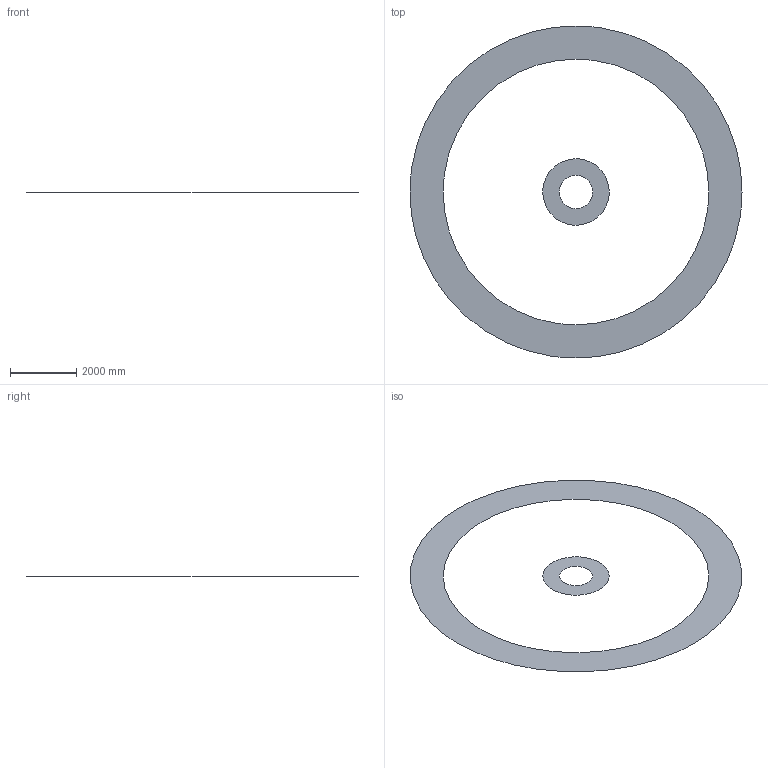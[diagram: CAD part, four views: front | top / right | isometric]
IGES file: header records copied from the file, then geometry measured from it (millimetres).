
Start section: VM228, RADIATION BETWEEN INFINITE COAXIAL CYLINDERS /COM,ANSYS RELEASE                   BUILD  0.0      UP00000000       00 /NOPR /PREP7 /TITLE,VM228, RADIATION BETWEEN INFINITE COAXIAL CYLINDERS DOF,TEMP, *SET,TIN,1000.000000000 *SET,TOUT,100.0000000000 *SET,_GEOMGEN,1.000000000000 *SET,_RETURN,0.000000000000 *SET,_STATUS,0.000000000000 TREF,0.00000000 IRLF,0 BFUNIF,TEMP,_TINY ACEL,0.00000000,0.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
Global section: file name:             ; native system: ANSYS; preprocessor:             UP        ; date: 000000.000000; units: metre
Bounding box: 10000 x 10000 x 0 mm (x, y, z)
Surface area: 30630528.4 mm2 (no closed solid volume)
Topology: 0 solids, 0 shells, 2 faces, 16 edges, 16 vertices
Faces by surface type: bspline 2
